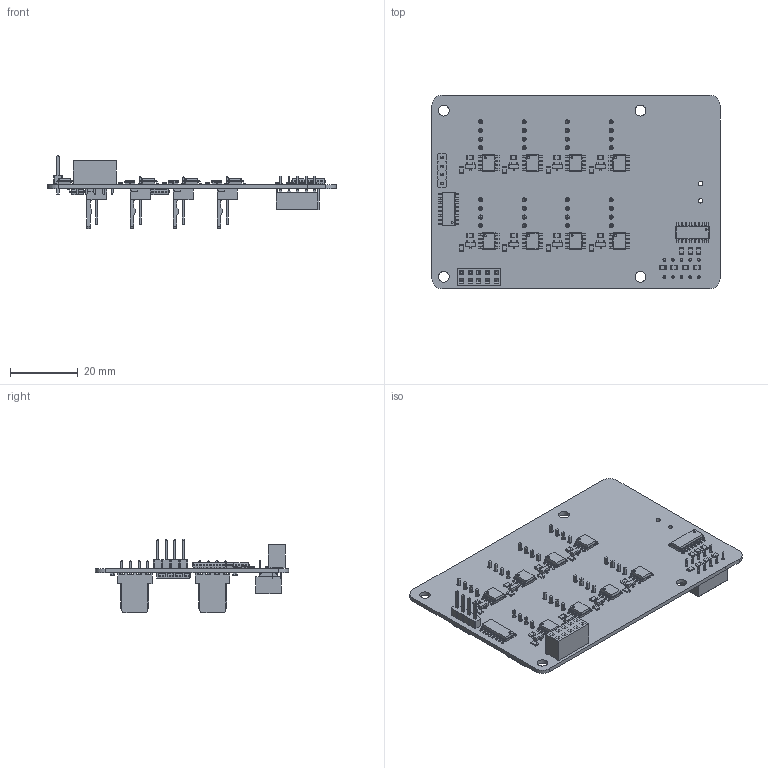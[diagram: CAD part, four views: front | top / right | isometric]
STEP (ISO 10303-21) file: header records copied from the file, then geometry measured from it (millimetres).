
FILE_DESCRIPTION(('KiCad electronic assembly'),'2;1');
FILE_NAME('serial-mux.step','2019-07-26T07:46:30',('An Author'),( 'A Company'),'Open CASCADE STEP processor 6.9', 'KiCad to STEP converter','Unknown');
FILE_SCHEMA(('AUTOMOTIVE_DESIGN { 1 0 10303 214 1 1 1 1 }'));
Length unit declared in the file: millimetre
Products named in the file (21): Open CASCADE STEP translator 6.9 1; PinHeader_1x04_P2.54mm_Vertical; SOLID; SOIC-16_3.9x9.9mm_P1.27mm; D_0805_2012Metric; HDSP-7401; R_0805_2012Metric; SOT-23; SOIC-8_3.9x4.9mm_P1.27mm; Molex_KK-254_AE-6410-04A_1x04_P2.54mm_Vertical; PinSocket_2x05_P2.54mm_Vertical; conn_screw_2p; COMPOUND
Assembly tree (74 placements, depth 3):
  Open CASCADE STEP translator 6.9 1
    PinHeader_1x04_P2.54mm_Vertical
      SOLID
    SOIC-16_3.9x9.9mm_P1.27mm  x5
      SOLID
    D_0805_2012Metric  x8
      SOLID
    HDSP-7401
      SOLID
    R_0805_2012Metric  x23
      SOLID
    SOT-23  x8
      SOLID
    SOIC-8_3.9x4.9mm_P1.27mm  x8
      SOLID
    Molex_KK-254_AE-6410-04A_1x04_P2.54mm_Vertical  x8
      SOLID
    PinSocket_2x05_P2.54mm_Vertical
      SOLID
    conn_screw_2p
    COMPOUND
Bounding box: 85 x 57 x 21.54 mm (x, y, z)
Volume: 9320 mm3; surface area: 17475.4 mm2
Topology: 64 solids, 64 shells, 5796 faces, 14859 edges, 9332 vertices
Faces by surface type: plane 4064, cylinder 1060, bspline 672
Full cylindrical faces by diameter (mm): 0.6 x13, 0.8 x11, 1 x14, 1.2 x32, 1.3 x2, 3.2 x4
Entity records: 98971 total; most frequent: CARTESIAN_POINT 16464, DIRECTION 13448, LINE 9616, VECTOR 9616, ORIENTED_EDGE 7158, PCURVE 7158, DEFINITIONAL_REPRESENTATION 7158, EDGE_CURVE 3579
